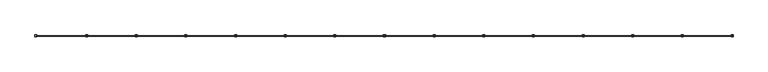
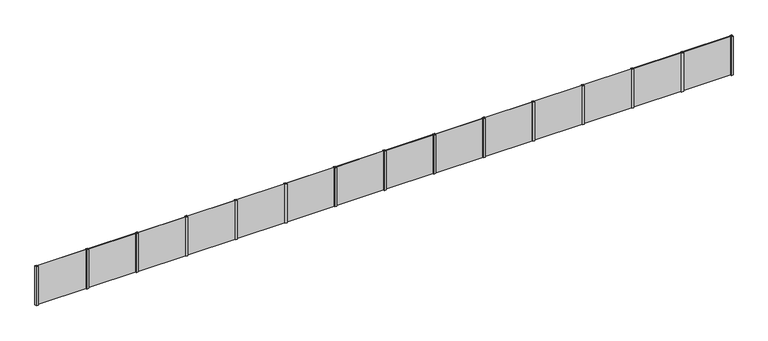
"""IFC4 building model written with IfcOpenShell, lengths in millimetres: railing geometry, REJA_PERIMETRAL_2000mm."""

from ifc_helpers import new_model, si_unit, frame, origin, place, context, project, spatial, polyline, outline, extrude, source, transform, mapped, element, save


def railing_e0be1908(model_context):
    return source(origin(), model_context, "Body", "SweptSolid", [
        extrude(outline(polyline([(-13348.5360387, 10673.4129304), (-15848.5360387, 10673.4129304), (-15848.5360387, 10683.4129304), (-13348.5360387, 10683.4129304), (-13348.5360387, 10673.4129304)])), frame((0.0, 0.0, 1500.0), z_axis=(0.0, 0.0, 1.0), x_axis=(1.0, 0.0, 0.0)), (0.0, 0.0, 1.0), 2000.0),
        extrude(outline(polyline([(-13342.80222, 10628.4129304), (-13442.80222, 10628.4129304), (-13442.80222, 10728.4129304), (-13342.80222, 10728.4129304), (-13342.80222, 10628.4129304)])), frame((0.0, 0.0, 1500.0), z_axis=(0.0, 0.0, 1.0), x_axis=(1.0, 0.0, 0.0)), (0.0, 0.0, 1.0), 2000.0),
        extrude(outline(polyline([(-10937.0684014, 10673.4129304), (-13437.0684014, 10673.4129304), (-13437.0684014, 10683.4129304), (-10937.0684014, 10683.4129304), (-10937.0684014, 10673.4129304)])), frame((0.0, 0.0, 1500.0), z_axis=(0.0, 0.0, 1.0), x_axis=(1.0, 0.0, 0.0)), (0.0, 0.0, 1.0), 2000.0),
        extrude(outline(polyline([(-10931.3345828, 10628.4129304), (-11031.3345828, 10628.4129304), (-11031.3345828, 10728.4129304), (-10931.3345828, 10728.4129304), (-10931.3345828, 10628.4129304)])), frame((0.0, 0.0, 1500.0), z_axis=(0.0, 0.0, 1.0), x_axis=(1.0, 0.0, 0.0)), (0.0, 0.0, 1.0), 2000.0),
        extrude(outline(polyline([(-8525.6007642, 10673.4129304), (-11025.6007642, 10673.4129304), (-11025.6007642, 10683.4129304), (-8525.6007642, 10683.4129304), (-8525.6007642, 10673.4129304)])), frame((0.0, 0.0, 1500.0), z_axis=(0.0, 0.0, 1.0), x_axis=(1.0, 0.0, 0.0)), (0.0, 0.0, 1.0), 2000.0),
        extrude(outline(polyline([(-8519.8669455, 10628.4129304), (-8619.8669455, 10628.4129304), (-8619.8669455, 10728.4129304), (-8519.8669455, 10728.4129304), (-8519.8669455, 10628.4129304)])), frame((0.0, 0.0, 1500.0), z_axis=(0.0, 0.0, 1.0), x_axis=(1.0, 0.0, 0.0)), (0.0, 0.0, 1.0), 2000.0),
        extrude(outline(polyline([(-6114.1331269, 10673.4129304), (-8614.1331269, 10673.4129304), (-8614.1331269, 10683.4129304), (-6114.1331269, 10683.4129304), (-6114.1331269, 10673.4129304)])), frame((0.0, 0.0, 1500.0), z_axis=(0.0, 0.0, 1.0), x_axis=(1.0, 0.0, 0.0)), (0.0, 0.0, 1.0), 2000.0),
        extrude(outline(polyline([(-6108.3993083, 10628.4129304), (-6208.3993083, 10628.4129304), (-6208.3993083, 10728.4129304), (-6108.3993083, 10728.4129304), (-6108.3993083, 10628.4129304)])), frame((0.0, 0.0, 1500.0), z_axis=(0.0, 0.0, 1.0), x_axis=(1.0, 0.0, 0.0)), (0.0, 0.0, 1.0), 2000.0),
        extrude(outline(polyline([(-3702.6654897, 10673.4129304), (-6202.6654897, 10673.4129304), (-6202.6654897, 10683.4129304), (-3702.6654897, 10683.4129304), (-3702.6654897, 10673.4129304)])), frame((0.0, 0.0, 1500.0), z_axis=(0.0, 0.0, 1.0), x_axis=(1.0, 0.0, 0.0)), (0.0, 0.0, 1.0), 2000.0),
        extrude(outline(polyline([(-3696.931671, 10628.4129304), (-3796.931671, 10628.4129304), (-3796.931671, 10728.4129304), (-3696.931671, 10728.4129304), (-3696.931671, 10628.4129304)])), frame((0.0, 0.0, 1500.0), z_axis=(0.0, 0.0, 1.0), x_axis=(1.0, 0.0, 0.0)), (0.0, 0.0, 1.0), 2000.0),
        extrude(outline(polyline([(-1291.1978524, 10673.4129304), (-3791.1978524, 10673.4129304), (-3791.1978524, 10683.4129304), (-1291.1978524, 10683.4129304), (-1291.1978524, 10673.4129304)])), frame((0.0, 0.0, 1500.0), z_axis=(0.0, 0.0, 1.0), x_axis=(1.0, 0.0, 0.0)), (0.0, 0.0, 1.0), 2000.0),
        extrude(outline(polyline([(-1285.4640338, 10628.4129304), (-1385.4640338, 10628.4129304), (-1385.4640338, 10728.4129304), (-1285.4640338, 10728.4129304), (-1285.4640338, 10628.4129304)])), frame((0.0, 0.0, 1500.0), z_axis=(0.0, 0.0, 1.0), x_axis=(1.0, 0.0, 0.0)), (0.0, 0.0, 1.0), 2000.0),
        extrude(outline(polyline([(1120.2697848, 10673.4129304), (-1379.7302152, 10673.4129304), (-1379.7302152, 10683.4129304), (1120.2697848, 10683.4129304), (1120.2697848, 10673.4129304)])), frame((0.0, 0.0, 1500.0), z_axis=(0.0, 0.0, 1.0), x_axis=(1.0, 0.0, 0.0)), (0.0, 0.0, 1.0), 2000.0),
        extrude(outline(polyline([(1126.0036035, 10628.4129304), (1026.0036035, 10628.4129304), (1026.0036035, 10728.4129304), (1126.0036035, 10728.4129304), (1126.0036035, 10628.4129304)])), frame((0.0, 0.0, 1500.0), z_axis=(0.0, 0.0, 1.0), x_axis=(1.0, 0.0, 0.0)), (0.0, 0.0, 1.0), 2000.0),
        extrude(outline(polyline([(3531.7374221, 10673.4129304), (1031.7374221, 10673.4129304), (1031.7374221, 10683.4129304), (3531.7374221, 10683.4129304), (3531.7374221, 10673.4129304)])), frame((0.0, 0.0, 1500.0), z_axis=(0.0, 0.0, 1.0), x_axis=(1.0, 0.0, 0.0)), (0.0, 0.0, 1.0), 2000.0),
        extrude(outline(polyline([(3537.4712407, 10628.4129304), (3437.4712407, 10628.4129304), (3437.4712407, 10728.4129304), (3537.4712407, 10728.4129304), (3537.4712407, 10628.4129304)])), frame((0.0, 0.0, 1500.0), z_axis=(0.0, 0.0, 1.0), x_axis=(1.0, 0.0, 0.0)), (0.0, 0.0, 1.0), 2000.0),
        extrude(outline(polyline([(5943.2050593, 10673.4129304), (3443.2050593, 10673.4129304), (3443.2050593, 10683.4129304), (5943.2050593, 10683.4129304), (5943.2050593, 10673.4129304)])), frame((0.0, 0.0, 1500.0), z_axis=(0.0, 0.0, 1.0), x_axis=(1.0, 0.0, 0.0)), (0.0, 0.0, 1.0), 2000.0),
        extrude(outline(polyline([(5948.938878, 10628.4129304), (5848.938878, 10628.4129304), (5848.938878, 10728.4129304), (5948.938878, 10728.4129304), (5948.938878, 10628.4129304)])), frame((0.0, 0.0, 1500.0), z_axis=(0.0, 0.0, 1.0), x_axis=(1.0, 0.0, 0.0)), (0.0, 0.0, 1.0), 2000.0),
        extrude(outline(polyline([(8354.6726966, 10673.4129304), (5854.6726966, 10673.4129304), (5854.6726966, 10683.4129304), (8354.6726966, 10683.4129304), (8354.6726966, 10673.4129304)])), frame((0.0, 0.0, 1500.0), z_axis=(0.0, 0.0, 1.0), x_axis=(1.0, 0.0, 0.0)), (0.0, 0.0, 1.0), 2000.0),
        extrude(outline(polyline([(8360.4065152, 10628.4129304), (8260.4065152, 10628.4129304), (8260.4065152, 10728.4129304), (8360.4065152, 10728.4129304), (8360.4065152, 10628.4129304)])), frame((0.0, 0.0, 1500.0), z_axis=(0.0, 0.0, 1.0), x_axis=(1.0, 0.0, 0.0)), (0.0, 0.0, 1.0), 2000.0),
        extrude(outline(polyline([(10766.1403338, 10673.4129304), (8266.1403338, 10673.4129304), (8266.1403338, 10683.4129304), (10766.1403338, 10683.4129304), (10766.1403338, 10673.4129304)])), frame((0.0, 0.0, 1500.0), z_axis=(0.0, 0.0, 1.0), x_axis=(1.0, 0.0, 0.0)), (0.0, 0.0, 1.0), 2000.0),
        extrude(outline(polyline([(10771.8741525, 10628.4129304), (10671.8741525, 10628.4129304), (10671.8741525, 10728.4129304), (10771.8741525, 10728.4129304), (10771.8741525, 10628.4129304)])), frame((0.0, 0.0, 1500.0), z_axis=(0.0, 0.0, 1.0), x_axis=(1.0, 0.0, 0.0)), (0.0, 0.0, 1.0), 2000.0),
        extrude(outline(polyline([(13177.6079711, 10673.4129304), (10677.6079711, 10673.4129304), (10677.6079711, 10683.4129304), (13177.6079711, 10683.4129304), (13177.6079711, 10673.4129304)])), frame((0.0, 0.0, 1500.0), z_axis=(0.0, 0.0, 1.0), x_axis=(1.0, 0.0, 0.0)), (0.0, 0.0, 1.0), 2000.0),
        extrude(outline(polyline([(13183.3417897, 10628.4129304), (13083.3417897, 10628.4129304), (13083.3417897, 10728.4129304), (13183.3417897, 10728.4129304), (13183.3417897, 10628.4129304)])), frame((0.0, 0.0, 1500.0), z_axis=(0.0, 0.0, 1.0), x_axis=(1.0, 0.0, 0.0)), (0.0, 0.0, 1.0), 2000.0),
        extrude(outline(polyline([(15589.0756083, 10673.4129304), (13089.0756083, 10673.4129304), (13089.0756083, 10683.4129304), (15589.0756083, 10683.4129304), (15589.0756083, 10673.4129304)])), frame((0.0, 0.0, 1500.0), z_axis=(0.0, 0.0, 1.0), x_axis=(1.0, 0.0, 0.0)), (0.0, 0.0, 1.0), 2000.0),
        extrude(outline(polyline([(15594.809427, 10628.4129304), (15494.809427, 10628.4129304), (15494.809427, 10728.4129304), (15594.809427, 10728.4129304), (15594.809427, 10628.4129304)])), frame((0.0, 0.0, 1500.0), z_axis=(0.0, 0.0, 1.0), x_axis=(1.0, 0.0, 0.0)), (0.0, 0.0, 1.0), 2000.0),
        extrude(outline(polyline([(18000.5432456, 10673.4129304), (15500.5432456, 10673.4129304), (15500.5432456, 10683.4129304), (18000.5432456, 10683.4129304), (18000.5432456, 10673.4129304)])), frame((0.0, 0.0, 1500.0), z_axis=(0.0, 0.0, 1.0), x_axis=(1.0, 0.0, 0.0)), (0.0, 0.0, 1.0), 2000.0),
        extrude(outline(polyline([(-15804.2698573, 10628.4129304), (-15904.2698573, 10628.4129304), (-15904.2698573, 10728.4129304), (-15804.2698573, 10728.4129304), (-15804.2698573, 10628.4129304)])), frame((0.0, 0.0, 1500.0), z_axis=(0.0, 0.0, 1.0), x_axis=(1.0, 0.0, 0.0)), (0.0, 0.0, 1.0), 2000.0),
        extrude(outline(polyline([(18006.2770642, 10628.4129304), (17906.2770642, 10628.4129304), (17906.2770642, 10728.4129304), (18006.2770642, 10728.4129304), (18006.2770642, 10628.4129304)])), frame((0.0, 0.0, 1500.0), z_axis=(0.0, 0.0, 1.0), x_axis=(1.0, 0.0, 0.0)), (0.0, 0.0, 1.0), 2000.0),
    ])


if __name__ == "__main__":
    model = new_model("IFC4")
    model_context = context("Model", 3, world=origin())
    ifc_project = project(units=[si_unit("LENGTHUNIT", "METRE", prefix="MILLI")], contexts=[model_context])
    site = spatial("IfcSite", under=ifc_project)
    building = spatial("IfcBuilding", under=site)
    placement = place(None, origin())
    railing_shape = railing_e0be1908(model_context)
    element("IfcRailing", 1, ObjectType="REJA_PERIMETRAL_2000mm", at=placement, inside=building, context=model_context, shape_type="MappedRepresentation", body=[
        mapped(railing_shape, transform((0.0, 0.0, 0.0), x_axis=(1.0, 0.0, 0.0), y_axis=(0.0, 1.0, 0.0), z_axis=(0.0, 0.0, 1.0))),
    ])
    save(model, "model.ifc")
